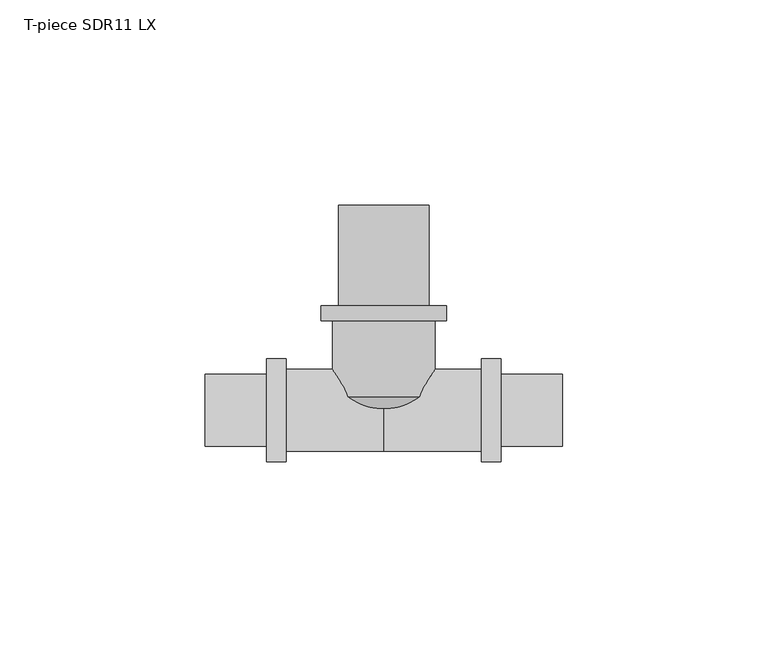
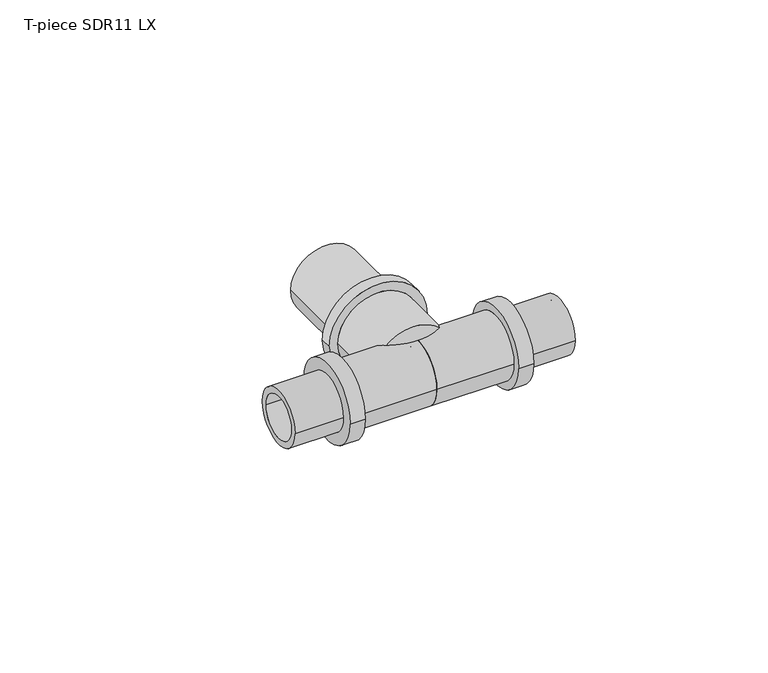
"""IFC4 building model written with IfcOpenShell, lengths in millimetres: pipe fitting geometry, T-piece SDR11 LX : T-piece LX SDR11 LX."""

from ifc_helpers import new_model, si_unit, point, frame, origin, place, context, project, spatial, polyline, circle_curve, ellipse_curve, trimmed, source, transform, mapped, element, save
from ifc_brep_helpers import plane_surface, cylinder_surface, revolved_surface, advanced_brep


def t_piece_sdr11_lx_4579e213(model_context):
    return source(origin(), model_context, "Body", "AdvancedBrep", [
        advanced_brep(
        [(12.5, 3.3009985, 0.0), (-12.5, 3.3009985, 0.0), (-12.5, 21.8, 0.0), (12.5, 21.8, 0.0), (8.9, 49.9, 0.0), (-8.9, 49.9, 0.0), (-8.9, 0.0, 0.0), (8.9, 0.0, 0.0), (11.0, 25.4, 0.0), (-11.0, 25.4, 0.0), (-11.0, 49.9, 0.0), (11.0, 49.9, 0.0), (15.25, 21.8, 0.0), (-15.25, 21.8, 0.0), (-15.25, 25.4, 0.0), (15.25, 25.4, 0.0)],
        [
            (0, 1, circle_curve(frame((0.0, 3.3009985, 0.0), z_axis=(0.0, 1.0, 0.0), x_axis=(-1.0, 0.0, 0.0)), 12.5)),
            (1, 2),
            (2, 3, circle_curve(frame((0.0, 21.8, 0.0), z_axis=(0.0, -1.0, 0.0), x_axis=(-1.0, 0.0, 0.0)), 12.5)),
            (3, 0),
            (4, 5, circle_curve(frame((0.0, 49.9, 0.0), z_axis=(0.0, 1.0, 0.0), x_axis=(-1.0, 0.0, 0.0)), 8.9)),
            (5, 6),
            (6, 7, circle_curve(frame((0.0, 0.0, 0.0), z_axis=(0.0, -1.0, 0.0), x_axis=(-1.0, 0.0, 0.0)), 8.9)),
            (7, 4),
            (8, 9, circle_curve(frame((0.0, 25.4, 0.0), z_axis=(0.0, 1.0, 0.0), x_axis=(-1.0, 0.0, 0.0)), 11.0)),
            (9, 10),
            (10, 11, circle_curve(frame((0.0, 49.9, 0.0), z_axis=(0.0, -1.0, 0.0), x_axis=(-1.0, 0.0, 0.0)), 11.0)),
            (11, 8),
            (12, 13, circle_curve(frame((0.0, 21.8, 0.0), z_axis=(0.0, 1.0, 0.0), x_axis=(-1.0, 0.0, 0.0)), 15.25)),
            (13, 14),
            (14, 15, circle_curve(frame((0.0, 25.4, 0.0), z_axis=(0.0, -1.0, 0.0), x_axis=(-1.0, 0.0, 0.0)), 15.25)),
            (15, 12),
            (12, 13, circle_curve(frame((0.0, 21.8, 0.0), z_axis=(0.0, -1.0, 0.0), x_axis=(1.0, 0.0, 0.0)), 15.25)),
            (2, 3, circle_curve(frame((0.0, 21.8, 0.0), z_axis=(0.0, 1.0, 0.0), x_axis=(1.0, 0.0, 0.0)), 12.5)),
            (1, 0, circle_curve(frame((0.0, 3.3009985, 0.0), z_axis=(0.0, 1.0, 0.0), x_axis=(1.0, 0.0, 0.0)), 12.5)),
            (5, 4, circle_curve(frame((0.0, 49.9, 0.0), z_axis=(0.0, 1.0, 0.0), x_axis=(1.0, 0.0, 0.0)), 8.9)),
            (7, 6, circle_curve(frame((0.0, 0.0, 0.0), z_axis=(0.0, -1.0, 0.0), x_axis=(1.0, 0.0, 0.0)), 8.9)),
            (10, 11, circle_curve(frame((0.0, 49.9, 0.0), z_axis=(0.0, 1.0, 0.0), x_axis=(1.0, 0.0, 0.0)), 11.0)),
            (9, 8, circle_curve(frame((0.0, 25.4, 0.0), z_axis=(0.0, 1.0, 0.0), x_axis=(1.0, 0.0, 0.0)), 11.0)),
            (14, 15, circle_curve(frame((0.0, 25.4, 0.0), z_axis=(0.0, 1.0, 0.0), x_axis=(1.0, 0.0, 0.0)), 15.25)),
            (6, 1, circle_curve(frame((-4.1462802, 8.7978491, 0.0), z_axis=(0.0, 0.0, -1.0), x_axis=(0.0, -1.0, 0.0)), 10.0)),
            (0, 7, circle_curve(frame((4.1462802, 8.7978491, 0.0), z_axis=(0.0, 0.0, -1.0), x_axis=(0.0, -1.0, 0.0)), 10.0)),
        ],
        [
            cylinder_surface(frame((0.0, 0.0, 0.0), z_axis=(0.0, -1.0, 0.0), x_axis=(-1.0, 0.0, 0.0)), 12.5),
            revolved_surface(polyline([(-8.9, 0.0, 0.0), (-8.9, 49.9, 0.0)]), (0.0, 0.0, 0.0), (0.0, -1.0, 0.0)),
            cylinder_surface(frame((0.0, 0.0, 0.0), z_axis=(0.0, -1.0, 0.0), x_axis=(-1.0, 0.0, 0.0)), 11.0),
            cylinder_surface(frame((0.0, 0.0, 0.0), z_axis=(0.0, -1.0, 0.0), x_axis=(-1.0, 0.0, 0.0)), 15.25),
            plane_surface(frame((0.0, 21.8, 0.0), z_axis=(0.0, -1.0, 0.0), x_axis=(1.0, 0.0, 0.0))),
            cylinder_surface(frame((0.0, 0.0, 0.0), z_axis=(0.0, -1.0, 0.0), x_axis=(1.0, 0.0, 0.0)), 12.5),
            revolved_surface(polyline([(8.9, 0.0, 0.0), (8.9, 49.9, 0.0)]), (0.0, 0.0, 0.0), (0.0, -1.0, 0.0)),
            plane_surface(frame((0.0, 49.9, 0.0), z_axis=(0.0, 1.0, 0.0), x_axis=(1.0, 0.0, 0.0))),
            cylinder_surface(frame((0.0, 0.0, 0.0), z_axis=(0.0, -1.0, 0.0), x_axis=(1.0, 0.0, 0.0)), 11.0),
            plane_surface(frame((0.0, 25.4, 0.0), z_axis=(0.0, 1.0, 0.0), x_axis=(1.0, 0.0, 0.0))),
            cylinder_surface(frame((0.0, 0.0, 0.0), z_axis=(0.0, -1.0, 0.0), x_axis=(1.0, 0.0, 0.0)), 15.25),
            revolved_surface(trimmed(ellipse_curve(frame((-4.1462802, 8.7978491, 0.0), z_axis=(0.0, 0.0, 1.0), x_axis=(0.0, -1.0, 0.0)), 10.0, 10.0), [point((-12.5, 3.3009985, 0.0))], [point((-8.9, 0.0, 0.0))], True, "CARTESIAN"), (0.0, 0.0, 0.0), (0.0, -1.0, 0.0)),
            revolved_surface(trimmed(ellipse_curve(frame((4.1462802, 8.7978491, 0.0), z_axis=(0.0, 0.0, -1.0), x_axis=(0.0, -1.0, 0.0)), 10.0, 10.0), [point((12.5, 3.3009985, 0.0))], [point((8.9, 0.0, 0.0))], True, "CARTESIAN"), (0.0, 0.0, 0.0), (0.0, -1.0, 0.0)),
        ],
        [
            (0, [[1, 2, 3, 4]]),
            (1, [[5, 6, 7, 8]]),
            (2, [[9, 10, 11, 12]]),
            (3, [[13, 14, 15, 16]]),
            (4, [[17, -13], [18, -3]]),
            (5, [[19, -4, -18, -2]]),
            (6, [[20, -8, 21, -6]]),
            (7, [[22, -11], [-20, -5]]),
            (8, [[23, -12, -22, -10]]),
            (9, [[24, -15], [-23, -9]]),
            (10, [[-17, -16, -24, -14]]),
            (11, [[-7, 25, -1, 26]]),
            (12, [[-21, -26, -19, -25]]),
        ],
    ),
        advanced_brep(
        [(23.8, 10.0, 0.0), (23.8, -10.0, 0.0), (0.0, -10.0, 0.0), (0.0, 10.0, 0.0), (0.0, 6.8, 0.0), (0.0, -6.8, 0.0), (43.5, -6.8, 0.0), (43.5, 6.8, 0.0), (43.5, 8.8, 0.0), (43.5, -8.8, 0.0), (28.5, -8.8, 0.0), (28.5, 8.8, 0.0), (28.5, 12.5, 0.0), (28.5, -12.5, 0.0), (23.8, -12.5, 0.0), (23.8, 12.5, 0.0)],
        [
            (0, 1, circle_curve(frame((23.8, 0.0, 0.0), z_axis=(-1.0, 0.0, 0.0), x_axis=(0.0, -1.0, 0.0)), 10.0)),
            (1, 2),
            (2, 3, circle_curve(frame((0.0, 0.0, 0.0), z_axis=(1.0, 0.0, 0.0), x_axis=(0.0, -1.0, 0.0)), 10.0)),
            (3, 0),
            (4, 5, circle_curve(frame((0.0, 0.0, 0.0), z_axis=(-1.0, 0.0, 0.0), x_axis=(0.0, -1.0, 0.0)), 6.8)),
            (5, 6),
            (6, 7, circle_curve(frame((43.5, 0.0, 0.0), z_axis=(1.0, 0.0, 0.0), x_axis=(0.0, -1.0, 0.0)), 6.8)),
            (7, 4),
            (8, 9, circle_curve(frame((43.5, 0.0, 0.0), z_axis=(-1.0, 0.0, 0.0), x_axis=(0.0, -1.0, 0.0)), 8.8)),
            (9, 10),
            (10, 11, circle_curve(frame((28.5, 0.0, 0.0), z_axis=(1.0, 0.0, 0.0), x_axis=(0.0, -1.0, 0.0)), 8.8)),
            (11, 8),
            (12, 13, circle_curve(frame((28.5, 0.0, 0.0), z_axis=(-1.0, 0.0, 0.0), x_axis=(0.0, -1.0, 0.0)), 12.5)),
            (13, 14),
            (14, 15, circle_curve(frame((23.8, 0.0, 0.0), z_axis=(1.0, 0.0, 0.0), x_axis=(0.0, -1.0, 0.0)), 12.5)),
            (15, 12),
            (14, 15, circle_curve(frame((23.8, 0.0, 0.0), z_axis=(-1.0, 0.0, 0.0), x_axis=(0.0, 1.0, 0.0)), 12.5)),
            (0, 1, circle_curve(frame((23.8, 0.0, 0.0), z_axis=(1.0, 0.0, 0.0), x_axis=(0.0, 1.0, 0.0)), 10.0)),
            (3, 2, circle_curve(frame((0.0, 0.0, 0.0), z_axis=(1.0, 0.0, 0.0), x_axis=(0.0, 1.0, 0.0)), 10.0)),
            (4, 5, circle_curve(frame((0.0, 0.0, 0.0), z_axis=(1.0, 0.0, 0.0), x_axis=(0.0, 1.0, 0.0)), 6.8)),
            (7, 6, circle_curve(frame((43.5, 0.0, 0.0), z_axis=(1.0, 0.0, 0.0), x_axis=(0.0, 1.0, 0.0)), 6.8)),
            (8, 9, circle_curve(frame((43.5, 0.0, 0.0), z_axis=(1.0, 0.0, 0.0), x_axis=(0.0, 1.0, 0.0)), 8.8)),
            (11, 10, circle_curve(frame((28.5, 0.0, 0.0), z_axis=(1.0, 0.0, 0.0), x_axis=(0.0, 1.0, 0.0)), 8.8)),
            (12, 13, circle_curve(frame((28.5, 0.0, 0.0), z_axis=(1.0, 0.0, 0.0), x_axis=(0.0, 1.0, 0.0)), 12.5)),
        ],
        [
            cylinder_surface(frame((0.0, 0.0, 0.0), z_axis=(1.0, 0.0, 0.0), x_axis=(0.0, -1.0, 0.0)), 10.0),
            revolved_surface(polyline([(43.5, -6.8, 0.0), (0.0, -6.8, 0.0)]), (0.0, 0.0, 0.0), (1.0, 0.0, 0.0)),
            cylinder_surface(frame((0.0, 0.0, 0.0), z_axis=(1.0, 0.0, 0.0), x_axis=(0.0, -1.0, 0.0)), 8.8),
            cylinder_surface(frame((0.0, 0.0, 0.0), z_axis=(1.0, 0.0, 0.0), x_axis=(0.0, -1.0, 0.0)), 12.5),
            plane_surface(frame((23.8, 0.0, 0.0), z_axis=(-1.0, 0.0, 0.0), x_axis=(0.0, 1.0, 0.0))),
            cylinder_surface(frame((0.0, 0.0, 0.0), z_axis=(1.0, 0.0, 0.0), x_axis=(0.0, 1.0, 0.0)), 10.0),
            plane_surface(frame((0.0, 0.0, 0.0), z_axis=(-1.0, 0.0, 0.0), x_axis=(0.0, 1.0, 0.0))),
            revolved_surface(polyline([(43.5, 6.8, 0.0), (0.0, 6.8, 0.0)]), (0.0, 0.0, 0.0), (1.0, 0.0, 0.0)),
            plane_surface(frame((43.5, 0.0, 0.0), z_axis=(1.0, 0.0, 0.0), x_axis=(0.0, 1.0, 0.0))),
            cylinder_surface(frame((0.0, 0.0, 0.0), z_axis=(1.0, 0.0, 0.0), x_axis=(0.0, 1.0, 0.0)), 8.8),
            plane_surface(frame((28.5, 0.0, 0.0), z_axis=(1.0, 0.0, 0.0), x_axis=(0.0, 1.0, 0.0))),
            cylinder_surface(frame((0.0, 0.0, 0.0), z_axis=(1.0, 0.0, 0.0), x_axis=(0.0, 1.0, 0.0)), 12.5),
        ],
        [
            (0, [[1, 2, 3, 4]]),
            (1, [[5, 6, 7, 8]]),
            (2, [[9, 10, 11, 12]]),
            (3, [[13, 14, 15, 16]]),
            (4, [[17, -15], [18, -1]]),
            (5, [[-18, -4, 19, -2]]),
            (6, [[-19, -3], [20, -5]]),
            (7, [[-20, -8, 21, -6]]),
            (8, [[22, -9], [-21, -7]]),
            (9, [[-22, -12, 23, -10]]),
            (10, [[24, -13], [-23, -11]]),
            (11, [[-24, -16, -17, -14]]),
        ],
    ),
        advanced_brep(
        [(0.0, 10.0, 0.0), (0.0, -10.0, 0.0), (-23.8, -10.0, 0.0), (-23.8, 10.0, 0.0), (-43.5, 6.8, 0.0), (-43.5, -6.8, 0.0), (0.0, -6.8, 0.0), (0.0, 6.8, 0.0), (-28.5, 8.8, 0.0), (-28.5, -8.8, 0.0), (-43.5, -8.8, 0.0), (-43.5, 8.8, 0.0), (-23.8, 12.5, 0.0), (-23.8, -12.5, 0.0), (-28.5, -12.5, 0.0), (-28.5, 12.5, 0.0)],
        [
            (0, 1, circle_curve(frame((0.0, 0.0, 0.0), z_axis=(-1.0, 0.0, 0.0), x_axis=(0.0, -1.0, 0.0)), 10.0)),
            (1, 2),
            (2, 3, circle_curve(frame((-23.8, 0.0, 0.0), z_axis=(1.0, 0.0, 0.0), x_axis=(0.0, -1.0, 0.0)), 10.0)),
            (3, 0),
            (4, 5, circle_curve(frame((-43.5, 0.0, 0.0), z_axis=(-1.0, 0.0, 0.0), x_axis=(0.0, -1.0, 0.0)), 6.8)),
            (5, 6),
            (6, 7, circle_curve(frame((0.0, 0.0, 0.0), z_axis=(1.0, 0.0, 0.0), x_axis=(0.0, -1.0, 0.0)), 6.8)),
            (7, 4),
            (8, 9, circle_curve(frame((-28.5, 0.0, 0.0), z_axis=(-1.0, 0.0, 0.0), x_axis=(0.0, -1.0, 0.0)), 8.8)),
            (9, 10),
            (10, 11, circle_curve(frame((-43.5, 0.0, 0.0), z_axis=(1.0, 0.0, 0.0), x_axis=(0.0, -1.0, 0.0)), 8.8)),
            (11, 8),
            (12, 13, circle_curve(frame((-23.8, 0.0, 0.0), z_axis=(-1.0, 0.0, 0.0), x_axis=(0.0, -1.0, 0.0)), 12.5)),
            (13, 14),
            (14, 15, circle_curve(frame((-28.5, 0.0, 0.0), z_axis=(1.0, 0.0, 0.0), x_axis=(0.0, -1.0, 0.0)), 12.5)),
            (15, 12),
            (12, 13, circle_curve(frame((-23.8, 0.0, 0.0), z_axis=(1.0, 0.0, 0.0), x_axis=(0.0, 1.0, 0.0)), 12.5)),
            (2, 3, circle_curve(frame((-23.8, 0.0, 0.0), z_axis=(-1.0, 0.0, 0.0), x_axis=(0.0, 1.0, 0.0)), 10.0)),
            (1, 0, circle_curve(frame((0.0, 0.0, 0.0), z_axis=(-1.0, 0.0, 0.0), x_axis=(0.0, 1.0, 0.0)), 10.0)),
            (6, 7, circle_curve(frame((0.0, 0.0, 0.0), z_axis=(-1.0, 0.0, 0.0), x_axis=(0.0, 1.0, 0.0)), 6.8)),
            (5, 4, circle_curve(frame((-43.5, 0.0, 0.0), z_axis=(-1.0, 0.0, 0.0), x_axis=(0.0, 1.0, 0.0)), 6.8)),
            (10, 11, circle_curve(frame((-43.5, 0.0, 0.0), z_axis=(-1.0, 0.0, 0.0), x_axis=(0.0, 1.0, 0.0)), 8.8)),
            (9, 8, circle_curve(frame((-28.5, 0.0, 0.0), z_axis=(-1.0, 0.0, 0.0), x_axis=(0.0, 1.0, 0.0)), 8.8)),
            (14, 15, circle_curve(frame((-28.5, 0.0, 0.0), z_axis=(-1.0, 0.0, 0.0), x_axis=(0.0, 1.0, 0.0)), 12.5)),
        ],
        [
            cylinder_surface(frame((0.0, 0.0, 0.0), z_axis=(1.0, 0.0, 0.0), x_axis=(0.0, -1.0, 0.0)), 10.0),
            revolved_surface(polyline([(0.0, -6.8, 0.0), (-43.5, -6.8, 0.0)]), (0.0, 0.0, 0.0), (1.0, 0.0, 0.0)),
            cylinder_surface(frame((0.0, 0.0, 0.0), z_axis=(1.0, 0.0, 0.0), x_axis=(0.0, -1.0, 0.0)), 8.8),
            cylinder_surface(frame((0.0, 0.0, 0.0), z_axis=(1.0, 0.0, 0.0), x_axis=(0.0, -1.0, 0.0)), 12.5),
            plane_surface(frame((-23.8, 0.0, 0.0), z_axis=(1.0, 0.0, 0.0), x_axis=(0.0, 1.0, 0.0))),
            cylinder_surface(frame((0.0, 0.0, 0.0), z_axis=(1.0, 0.0, 0.0), x_axis=(0.0, 1.0, 0.0)), 10.0),
            plane_surface(frame((0.0, 0.0, 0.0), z_axis=(1.0, 0.0, 0.0), x_axis=(0.0, 1.0, 0.0))),
            revolved_surface(polyline([(0.0, 6.8, 0.0), (-43.5, 6.8, 0.0)]), (0.0, 0.0, 0.0), (1.0, 0.0, 0.0)),
            plane_surface(frame((-43.5, 0.0, 0.0), z_axis=(-1.0, 0.0, 0.0), x_axis=(0.0, 1.0, 0.0))),
            cylinder_surface(frame((0.0, 0.0, 0.0), z_axis=(1.0, 0.0, 0.0), x_axis=(0.0, 1.0, 0.0)), 8.8),
            plane_surface(frame((-28.5, 0.0, 0.0), z_axis=(-1.0, 0.0, 0.0), x_axis=(0.0, 1.0, 0.0))),
            cylinder_surface(frame((0.0, 0.0, 0.0), z_axis=(1.0, 0.0, 0.0), x_axis=(0.0, 1.0, 0.0)), 12.5),
        ],
        [
            (0, [[1, 2, 3, 4]]),
            (1, [[5, 6, 7, 8]]),
            (2, [[9, 10, 11, 12]]),
            (3, [[13, 14, 15, 16]]),
            (4, [[17, -13], [18, -3]]),
            (5, [[19, -4, -18, -2]]),
            (6, [[-19, -1], [20, -7]]),
            (7, [[21, -8, -20, -6]]),
            (8, [[22, -11], [-21, -5]]),
            (9, [[23, -12, -22, -10]]),
            (10, [[24, -15], [-23, -9]]),
            (11, [[-17, -16, -24, -14]]),
        ],
    ),
    ])


if __name__ == "__main__":
    model = new_model("IFC4")
    model_context = context("Model", 3, world=origin())
    ifc_project = project(units=[si_unit("LENGTHUNIT", "METRE", prefix="MILLI")], contexts=[model_context])
    site = spatial("IfcSite", under=ifc_project)
    building = spatial("IfcBuilding", under=site)
    placement = place(None, origin())
    t_piece_sdr11_lx_shape = t_piece_sdr11_lx_4579e213(model_context)
    element("IfcPipeFitting", 1, ObjectType="T-piece SDR11 LX : T-piece LX SDR11 LX", at=placement, inside=building, context=model_context, shape_type="MappedRepresentation", body=[
        mapped(t_piece_sdr11_lx_shape, transform((0.0, 0.0, 0.0), x_axis=(1.0, 0.0, 0.0), y_axis=(0.0, 1.0, 0.0), z_axis=(0.0, 0.0, 1.0))),
    ])
    save(model, "model.ifc")
